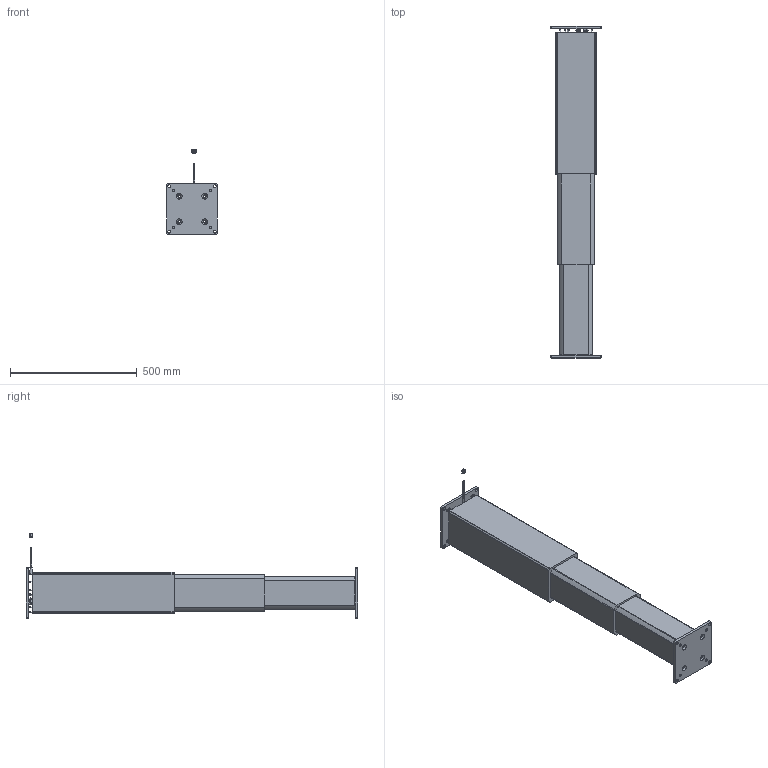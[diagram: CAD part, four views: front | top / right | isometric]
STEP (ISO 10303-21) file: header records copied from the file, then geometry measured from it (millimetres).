
FILE_DESCRIPTION((''),'2;1');
FILE_NAME('LC3-EXTRACTED-1310MM_ASM','2023-10-06T07:38:16',('jak'),(''),'CREO PARAMETRIC BY PTC INC, 2022024','CREO PARAMETRIC BY PTC INC, 2022024','');
FILE_SCHEMA(('AUTOMOTIVE_DESIGN { 1 0 10303 214 1 1 1 1 }'));
Products named in the file (7): LC3-EXTRACTED-1310MM_1_1; LC3-EXTRACTED-1310MM_1_2; LC3-EXTRACTED-1310MM_1_3; LC3-EXTRACTED-1310MM_1_4; LC3-EXTRACTED-1310MM_1_5; LC3-EXTRACTED-1310MM_1_ASM; LC3-EXTRACTED-1310MM_ASM
Assembly tree (6 placements, depth 3):
  LC3-EXTRACTED-1310MM_ASM
    LC3-EXTRACTED-1310MM_1_ASM
      LC3-EXTRACTED-1310MM_1_1
      LC3-EXTRACTED-1310MM_1_2
      LC3-EXTRACTED-1310MM_1_3
      LC3-EXTRACTED-1310MM_1_4
      LC3-EXTRACTED-1310MM_1_5
Bounding box: 200 x 1310 x 333.97 mm (x, y, z)
Volume: 28343139.9 mm3; surface area: 1147442.8 mm2
Topology: 4 solids, 4 shells, 1643 faces, 4528 edges, 2940 vertices
Faces by surface type: cylinder 769, plane 573, torus 110, bspline 98, cone 81, sphere 12
Entity records: 86844 total; most frequent: CARTESIAN_POINT 33641, ORIENTED_EDGE 9016, DIRECTION 8784, EDGE_CURVE 4508, AXIS2_PLACEMENT_3D 3302, VERTEX_POINT 2940, VECTOR 2180, LINE 2180
